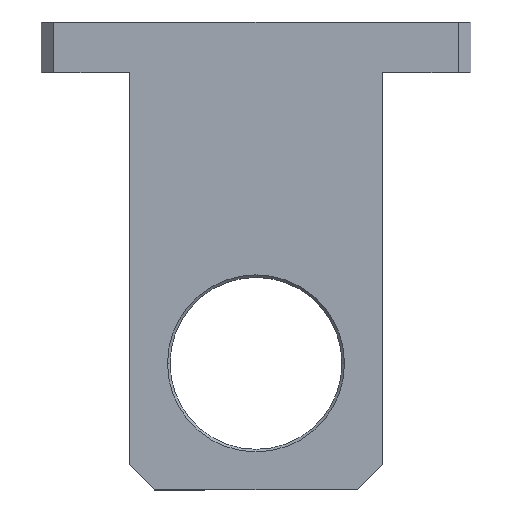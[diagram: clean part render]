
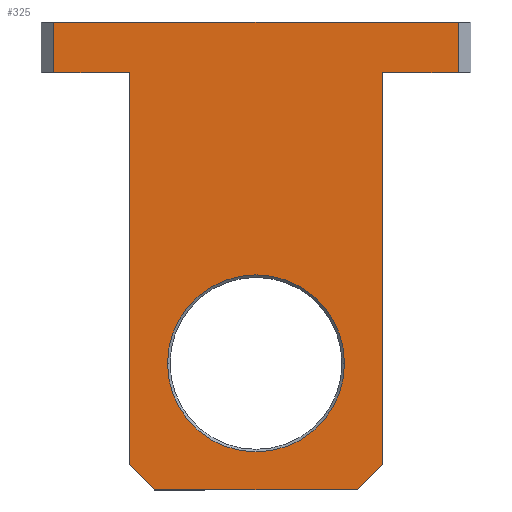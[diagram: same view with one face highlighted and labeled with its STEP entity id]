
A CAD part, top view. The second image highlights one B-rep face of the part: STEP entity #325.
In plain terms, the highlighted planar face has unit normal (0, 0, 1).
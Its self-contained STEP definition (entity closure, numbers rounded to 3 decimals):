
#16 = CARTESIAN_POINT ( 'NONE',  ( 45., -185., 40. ) ) ;
#21 = DIRECTION ( 'NONE',  ( 0., 1., 0. ) ) ;
#51 = EDGE_LOOP ( 'NONE', ( #295, #478, #559, #1432, #617, #895, #971, #1340, #473, #1102 ) ) ;
#70 = DIRECTION ( 'NONE',  ( 1., 0., 0. ) ) ;
#72 = DIRECTION ( 'NONE',  ( 1., 0., 0. ) ) ;
#84 = EDGE_CURVE ( 'NONE', #484, #1557, #614, .T. ) ;
#143 = CARTESIAN_POINT ( 'NONE',  ( 165., 0., 40. ) ) ;
#167 = CARTESIAN_POINT ( 'NONE',  ( 135., -175., 40. ) ) ;
#185 = EDGE_CURVE ( 'NONE', #1053, #407, #508, .T. ) ;
#212 = CARTESIAN_POINT ( 'NONE',  ( 135., -20., 40. ) ) ;
#235 = DIRECTION ( 'NONE',  ( 0., 0., -1. ) ) ;
#237 = CARTESIAN_POINT ( 'NONE',  ( 120., -135., 40. ) ) ;
#245 = CARTESIAN_POINT ( 'NONE',  ( 85., -135., 40. ) ) ;
#249 = DIRECTION ( 'NONE',  ( -1., 0., 0. ) ) ;
#295 = ORIENTED_EDGE ( 'NONE', *, *, #398, .T. ) ;
#300 = CARTESIAN_POINT ( 'NONE',  ( 5., 0., 40. ) ) ;
#306 = ORIENTED_EDGE ( 'NONE', *, *, #619, .T. ) ;
#311 = LINE ( 'NONE', #167, #1458 ) ;
#315 = DIRECTION ( 'NONE',  ( 0., -1., 0. ) ) ;
#316 = EDGE_LOOP ( 'NONE', ( #306, #777 ) ) ;
#325 = ADVANCED_FACE ( 'NONE', ( #1443, #897 ), #924, .F. ) ;
#370 = LINE ( 'NONE', #1325, #762 ) ;
#373 = LINE ( 'NONE', #16, #1586 ) ;
#374 = VECTOR ( 'NONE', #1044, 1000. ) ;
#381 = EDGE_CURVE ( 'NONE', #1333, #537, #710, .T. ) ;
#398 = EDGE_CURVE ( 'NONE', #1521, #1066, #586, .T. ) ;
#407 = VERTEX_POINT ( 'NONE', #1378 ) ;
#423 = LINE ( 'NONE', #300, #1139 ) ;
#430 = VERTEX_POINT ( 'NONE', #1599 ) ;
#473 = ORIENTED_EDGE ( 'NONE', *, *, #1306, .T. ) ;
#478 = ORIENTED_EDGE ( 'NONE', *, *, #675, .T. ) ;
#484 = VERTEX_POINT ( 'NONE', #1632 ) ;
#508 = LINE ( 'NONE', #1575, #374 ) ;
#518 = VECTOR ( 'NONE', #70, 1000. ) ;
#537 = VERTEX_POINT ( 'NONE', #1609 ) ;
#558 = EDGE_CURVE ( 'NONE', #537, #743, #1482, .T. ) ;
#559 = ORIENTED_EDGE ( 'NONE', *, *, #1096, .T. ) ;
#569 = AXIS2_PLACEMENT_3D ( 'NONE', #245, #235, #1385 ) ;
#586 = LINE ( 'NONE', #212, #518 ) ;
#614 = CIRCLE ( 'NONE', #1016, 35. ) ;
#617 = ORIENTED_EDGE ( 'NONE', *, *, #381, .T. ) ;
#619 = EDGE_CURVE ( 'NONE', #1557, #484, #787, .T. ) ;
#643 = CARTESIAN_POINT ( 'NONE',  ( 0., 0., 40. ) ) ;
#657 = CARTESIAN_POINT ( 'NONE',  ( 135., -175., 40. ) ) ;
#675 = EDGE_CURVE ( 'NONE', #1066, #430, #1311, .T. ) ;
#685 = EDGE_CURVE ( 'NONE', #743, #1053, #373, .T. ) ;
#710 = LINE ( 'NONE', #1252, #1681 ) ;
#743 = VERTEX_POINT ( 'NONE', #1559 ) ;
#762 = VECTOR ( 'NONE', #21, 1000. ) ;
#777 = ORIENTED_EDGE ( 'NONE', *, *, #84, .T. ) ;
#787 = CIRCLE ( 'NONE', #569, 35. ) ;
#796 = DIRECTION ( 'NONE',  ( 0.707, 0.707, 0. ) ) ;
#828 = DIRECTION ( 'NONE',  ( 0., -1., 0. ) ) ;
#847 = DIRECTION ( 'NONE',  ( -1., 0., 0. ) ) ;
#886 = CARTESIAN_POINT ( 'NONE',  ( 0., 0., 40. ) ) ;
#895 = ORIENTED_EDGE ( 'NONE', *, *, #558, .T. ) ;
#897 = FACE_OUTER_BOUND ( 'NONE', #51, .T. ) ;
#924 = PLANE ( 'NONE',  #1417 ) ;
#971 = ORIENTED_EDGE ( 'NONE', *, *, #685, .T. ) ;
#1016 = AXIS2_PLACEMENT_3D ( 'NONE', #1389, #1121, #847 ) ;
#1044 = DIRECTION ( 'NONE',  ( 1., 0., 0. ) ) ;
#1053 = VERTEX_POINT ( 'NONE', #1512 ) ;
#1066 = VERTEX_POINT ( 'NONE', #1659 ) ;
#1070 = LINE ( 'NONE', #886, #1505 ) ;
#1096 = EDGE_CURVE ( 'NONE', #430, #1358, #1070, .T. ) ;
#1102 = ORIENTED_EDGE ( 'NONE', *, *, #1152, .T. ) ;
#1117 = VERTEX_POINT ( 'NONE', #657 ) ;
#1119 = CARTESIAN_POINT ( 'NONE',  ( 135., -20., 40. ) ) ;
#1121 = DIRECTION ( 'NONE',  ( 0., 0., -1. ) ) ;
#1139 = VECTOR ( 'NONE', #828, 1000. ) ;
#1152 = EDGE_CURVE ( 'NONE', #1117, #1521, #370, .T. ) ;
#1171 = DIRECTION ( 'NONE',  ( 0.707, -0.707, 0. ) ) ;
#1182 = DIRECTION ( 'NONE',  ( -1., 0., 0. ) ) ;
#1222 = VECTOR ( 'NONE', #1677, 1000. ) ;
#1232 = CARTESIAN_POINT ( 'NONE',  ( 5., -20., 40. ) ) ;
#1252 = CARTESIAN_POINT ( 'NONE',  ( 35., -20., 40. ) ) ;
#1277 = VECTOR ( 'NONE', #315, 1000. ) ;
#1306 = EDGE_CURVE ( 'NONE', #407, #1117, #311, .T. ) ;
#1311 = LINE ( 'NONE', #143, #1222 ) ;
#1325 = CARTESIAN_POINT ( 'NONE',  ( 135., -20., 40. ) ) ;
#1333 = VERTEX_POINT ( 'NONE', #1232 ) ;
#1340 = ORIENTED_EDGE ( 'NONE', *, *, #185, .T. ) ;
#1358 = VERTEX_POINT ( 'NONE', #1488 ) ;
#1378 = CARTESIAN_POINT ( 'NONE',  ( 125., -185., 40. ) ) ;
#1385 = DIRECTION ( 'NONE',  ( -1., 0., 0. ) ) ;
#1389 = CARTESIAN_POINT ( 'NONE',  ( 85., -135., 40. ) ) ;
#1417 = AXIS2_PLACEMENT_3D ( 'NONE', #643, #1454, #1182 ) ;
#1432 = ORIENTED_EDGE ( 'NONE', *, *, #1486, .T. ) ;
#1443 = FACE_BOUND ( 'NONE', #316, .T. ) ;
#1454 = DIRECTION ( 'NONE',  ( 0., 0., -1. ) ) ;
#1458 = VECTOR ( 'NONE', #796, 1000. ) ;
#1465 = CARTESIAN_POINT ( 'NONE',  ( 35., -20., 40. ) ) ;
#1482 = LINE ( 'NONE', #1465, #1277 ) ;
#1486 = EDGE_CURVE ( 'NONE', #1358, #1333, #423, .T. ) ;
#1488 = CARTESIAN_POINT ( 'NONE',  ( 5., 0., 40. ) ) ;
#1505 = VECTOR ( 'NONE', #249, 1000. ) ;
#1512 = CARTESIAN_POINT ( 'NONE',  ( 45., -185., 40. ) ) ;
#1521 = VERTEX_POINT ( 'NONE', #1119 ) ;
#1557 = VERTEX_POINT ( 'NONE', #237 ) ;
#1559 = CARTESIAN_POINT ( 'NONE',  ( 35., -175., 40. ) ) ;
#1575 = CARTESIAN_POINT ( 'NONE',  ( 170., -185., 40. ) ) ;
#1586 = VECTOR ( 'NONE', #1171, 1000. ) ;
#1599 = CARTESIAN_POINT ( 'NONE',  ( 165., 0., 40. ) ) ;
#1609 = CARTESIAN_POINT ( 'NONE',  ( 35., -20., 40. ) ) ;
#1632 = CARTESIAN_POINT ( 'NONE',  ( 50., -135., 40. ) ) ;
#1659 = CARTESIAN_POINT ( 'NONE',  ( 165., -20., 40. ) ) ;
#1677 = DIRECTION ( 'NONE',  ( 0., 1., 0. ) ) ;
#1681 = VECTOR ( 'NONE', #72, 1000. ) ;
